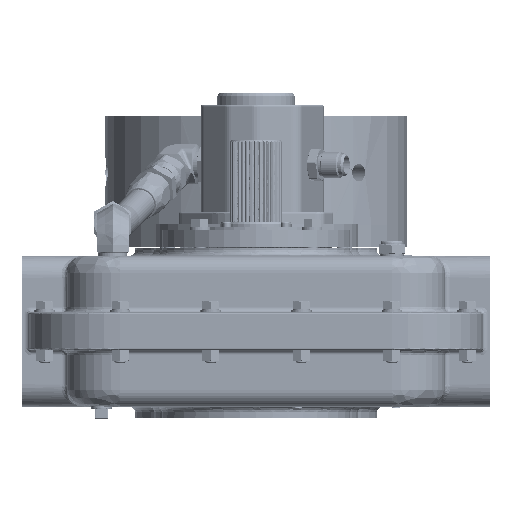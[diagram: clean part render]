
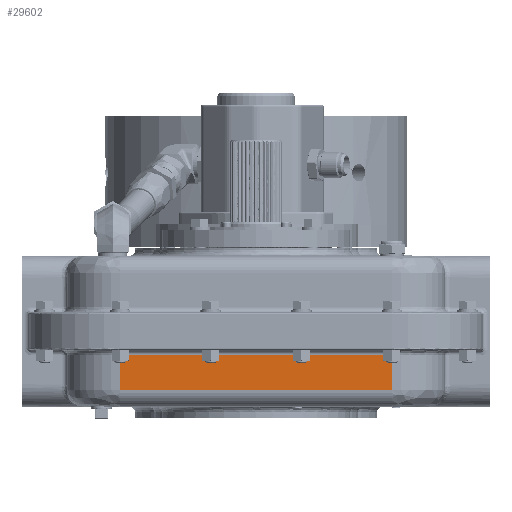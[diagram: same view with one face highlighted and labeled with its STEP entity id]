
A CAD part, front view. The second image highlights one B-rep face of the part: STEP entity #29602.
In plain terms, the highlighted planar face has unit normal (0, -1, 0).
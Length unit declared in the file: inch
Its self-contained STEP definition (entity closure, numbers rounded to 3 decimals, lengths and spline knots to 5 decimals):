
#43 = CARTESIAN_POINT ( 'NONE',  ( 4.52271, -6.75, -1.94 ) ) ;
#4345 = CARTESIAN_POINT ( 'NONE',  ( 4.5, -6.75, -0.8 ) ) ;
#4820 = EDGE_CURVE ( 'NONE', #188707, #126758, #50368, .T. ) ;
#6279 = VERTEX_POINT ( 'NONE', #60395 ) ;
#21052 = DIRECTION ( 'NONE',  ( 0., -1., 0. ) ) ;
#29602 = ADVANCED_FACE ( 'NONE', ( #91126 ), #36498, .T. ) ;
#33503 = VECTOR ( 'NONE', #78333, 39.37008 ) ;
#36498 = PLANE ( 'NONE',  #165250 ) ;
#46164 = ORIENTED_EDGE ( 'NONE', *, *, #4820, .F. ) ;
#50368 = LINE ( 'NONE', #43, #120422 ) ;
#51963 = VECTOR ( 'NONE', #100300, 39.37008 ) ;
#55188 = ORIENTED_EDGE ( 'NONE', *, *, #179568, .F. ) ;
#56973 = LINE ( 'NONE', #4345, #51963 ) ;
#60395 = CARTESIAN_POINT ( 'NONE',  ( 4.5, -6.75, -0.8 ) ) ;
#70221 = CARTESIAN_POINT ( 'NONE',  ( -4.5, -6.75, -1.94 ) ) ;
#72546 = VECTOR ( 'NONE', #91521, 39.37008 ) ;
#78333 = DIRECTION ( 'NONE',  ( 0., 0., 1. ) ) ;
#91126 = FACE_OUTER_BOUND ( 'NONE', #106947, .T. ) ;
#91521 = DIRECTION ( 'NONE',  ( 0., 0., 1. ) ) ;
#100300 = DIRECTION ( 'NONE',  ( -1., 0., 0. ) ) ;
#104176 = VERTEX_POINT ( 'NONE', #177579 ) ;
#106947 = EDGE_LOOP ( 'NONE', ( #197797, #157922, #55188, #46164 ) ) ;
#112714 = DIRECTION ( 'NONE',  ( -1., 0., 0. ) ) ;
#113570 = LINE ( 'NONE', #175013, #33503 ) ;
#120422 = VECTOR ( 'NONE', #112714, 39.37008 ) ;
#126758 = VERTEX_POINT ( 'NONE', #70221 ) ;
#132104 = EDGE_CURVE ( 'NONE', #6279, #104176, #56973, .T. ) ;
#133044 = DIRECTION ( 'NONE',  ( 0., 0., -1. ) ) ;
#157922 = ORIENTED_EDGE ( 'NONE', *, *, #132104, .T. ) ;
#162812 = LINE ( 'NONE', #187563, #72546 ) ;
#165250 = AXIS2_PLACEMENT_3D ( 'NONE', #180839, #21052, #133044 ) ;
#170387 = CARTESIAN_POINT ( 'NONE',  ( 4.5, -6.75, -1.94 ) ) ;
#175013 = CARTESIAN_POINT ( 'NONE',  ( 4.5, -6.75, -2.5 ) ) ;
#177579 = CARTESIAN_POINT ( 'NONE',  ( -4.5, -6.75, -0.8 ) ) ;
#179568 = EDGE_CURVE ( 'NONE', #126758, #104176, #162812, .T. ) ;
#180839 = CARTESIAN_POINT ( 'NONE',  ( 4.5, -6.75, -2.5 ) ) ;
#187563 = CARTESIAN_POINT ( 'NONE',  ( -4.5, -6.75, -2.5 ) ) ;
#188707 = VERTEX_POINT ( 'NONE', #170387 ) ;
#197797 = ORIENTED_EDGE ( 'NONE', *, *, #202453, .T. ) ;
#202453 = EDGE_CURVE ( 'NONE', #188707, #6279, #113570, .T. ) ;
